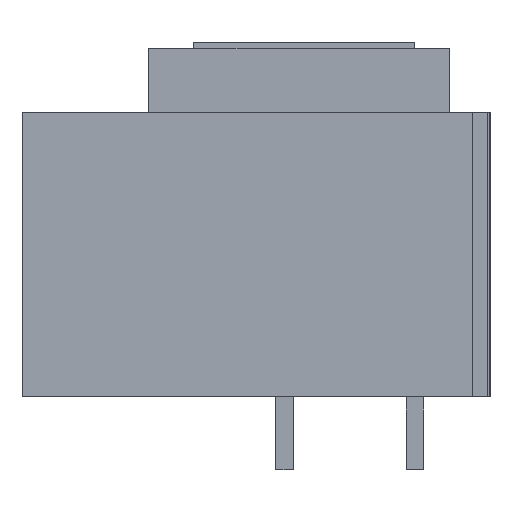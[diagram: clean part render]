
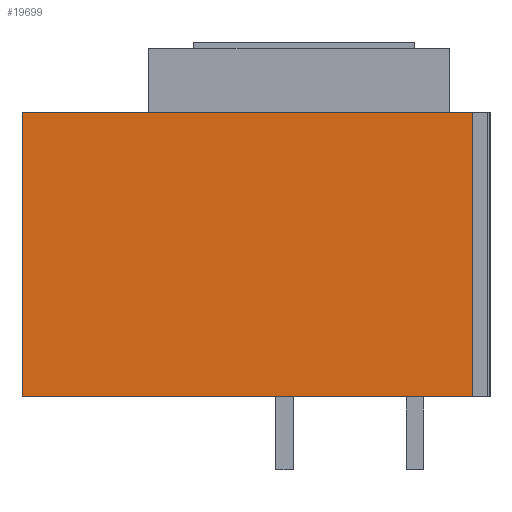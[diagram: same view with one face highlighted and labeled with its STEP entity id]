
A CAD part, left-side view. The second image highlights one B-rep face of the part: STEP entity #19699.
In plain terms, the highlighted planar face has unit normal (-1, 0, 0).
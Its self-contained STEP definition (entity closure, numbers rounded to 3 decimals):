
#577 = ORIENTED_EDGE ( 'NONE', *, *, #36641, .T. ) ;
#1079 = ORIENTED_EDGE ( 'NONE', *, *, #11080, .F. ) ;
#6733 = VERTEX_POINT ( 'NONE', #35460 ) ;
#7595 = FACE_OUTER_BOUND ( 'NONE', #39034, .T. ) ;
#8783 = LINE ( 'NONE', #12656, #28889 ) ;
#11080 = EDGE_CURVE ( 'NONE', #6733, #14050, #26800, .T. ) ;
#12304 = LINE ( 'NONE', #37471, #38746 ) ;
#12517 = DIRECTION ( 'NONE',  ( 0., -1., 0. ) ) ;
#12656 = CARTESIAN_POINT ( 'NONE',  ( -254., 0., 0. ) ) ;
#14050 = VERTEX_POINT ( 'NONE', #27877 ) ;
#14858 = AXIS2_PLACEMENT_3D ( 'NONE', #37301, #20130, #27373 ) ;
#14942 = VERTEX_POINT ( 'NONE', #17708 ) ;
#17463 = DIRECTION ( 'NONE',  ( 0., -1., 0. ) ) ;
#17708 = CARTESIAN_POINT ( 'NONE',  ( -254., 15., 0. ) ) ;
#18049 = DIRECTION ( 'NONE',  ( 0., 0., 1. ) ) ;
#19143 = ORIENTED_EDGE ( 'NONE', *, *, #25692, .T. ) ;
#19699 = ADVANCED_FACE ( 'NONE', ( #7595 ), #37171, .T. ) ;
#20130 = DIRECTION ( 'NONE',  ( -1., 0., 0. ) ) ;
#23643 = VECTOR ( 'NONE', #17463, 1000. ) ;
#24931 = DIRECTION ( 'NONE',  ( 0., 0., 1. ) ) ;
#25692 = EDGE_CURVE ( 'NONE', #6733, #26415, #27501, .T. ) ;
#26415 = VERTEX_POINT ( 'NONE', #33458 ) ;
#26800 = LINE ( 'NONE', #38771, #34005 ) ;
#27373 = DIRECTION ( 'NONE',  ( 0., -1., 0. ) ) ;
#27501 = LINE ( 'NONE', #32702, #23643 ) ;
#27877 = CARTESIAN_POINT ( 'NONE',  ( -254., 402., 0. ) ) ;
#28889 = VECTOR ( 'NONE', #12517, 1000. ) ;
#32702 = CARTESIAN_POINT ( 'NONE',  ( -254., 0., -244.5 ) ) ;
#33458 = CARTESIAN_POINT ( 'NONE',  ( -254., 15., -244.5 ) ) ;
#33861 = EDGE_CURVE ( 'NONE', #14050, #14942, #8783, .T. ) ;
#34005 = VECTOR ( 'NONE', #18049, 1000. ) ;
#35460 = CARTESIAN_POINT ( 'NONE',  ( -254., 402., -244.5 ) ) ;
#36641 = EDGE_CURVE ( 'NONE', #26415, #14942, #12304, .T. ) ;
#37171 = PLANE ( 'NONE',  #14858 ) ;
#37208 = ORIENTED_EDGE ( 'NONE', *, *, #33861, .F. ) ;
#37301 = CARTESIAN_POINT ( 'NONE',  ( -254., 0., -244.5 ) ) ;
#37471 = CARTESIAN_POINT ( 'NONE',  ( -254., 15., -244.5 ) ) ;
#38746 = VECTOR ( 'NONE', #24931, 1000. ) ;
#38771 = CARTESIAN_POINT ( 'NONE',  ( -254., 402., -244.5 ) ) ;
#39034 = EDGE_LOOP ( 'NONE', ( #37208, #1079, #19143, #577 ) ) ;
